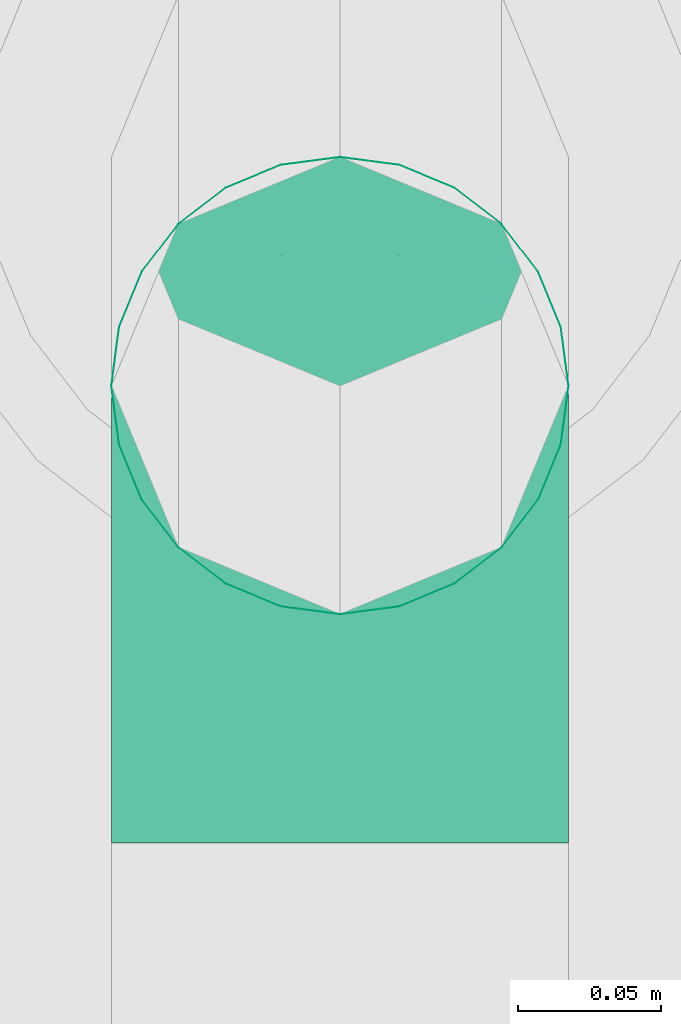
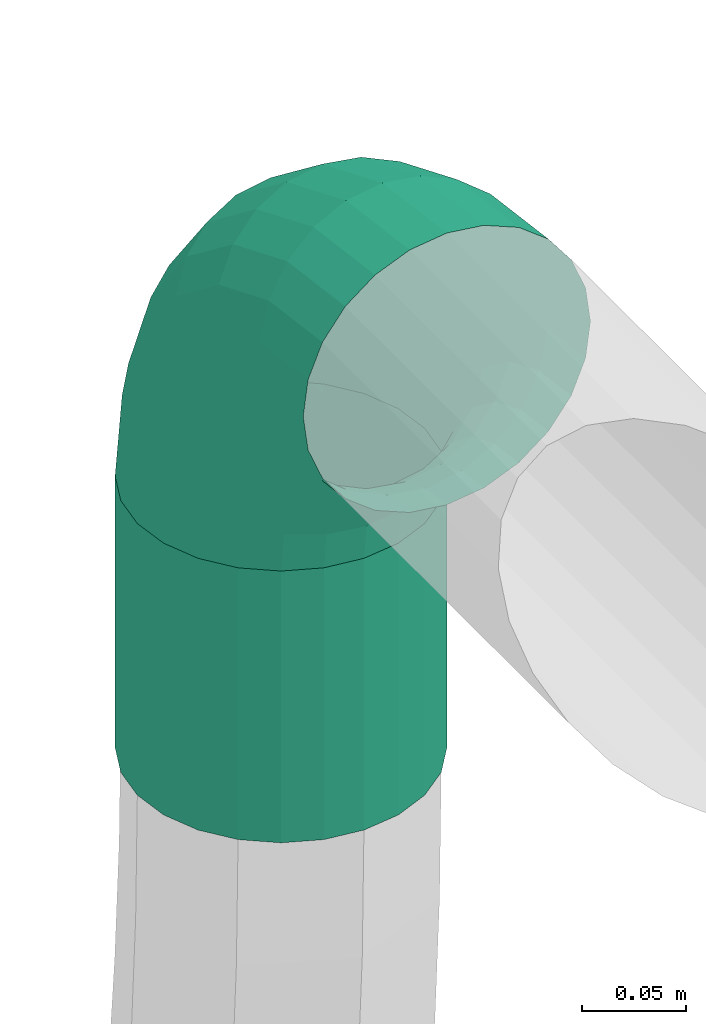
# One storey, part 180 of 374: 1 flow fitting, 1 flow segment.
"""IFC2X3 building model written with IfcOpenShell, lengths in metres."""

from ifc_helpers import new_model, si_unit, direction, origin, place, context, subcontext, project, spatial, open_shell, surface_model, source, transform, mapped, element, save


model = new_model("IFC2X3")

# Units and contexts
model_context = context("Model", 3, precision=1e-05, world=origin(), true_north=direction((-0.4480736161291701, 0.8939966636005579)))
body_context = subcontext(model_context, "Body", "Model", "MODEL_VIEW")
ifc_project = project(units=[si_unit("LENGTHUNIT", "METRE"), si_unit("AREAUNIT", "SQUARE_METRE"), si_unit("VOLUMEUNIT", "CUBIC_METRE"), si_unit("PLANEANGLEUNIT", "RADIAN"), si_unit("THERMODYNAMICTEMPERATUREUNIT", "KELVIN"), si_unit("MASSUNIT", "GRAM", prefix="KILO"), si_unit("TIMEUNIT", "SECOND")], contexts=[model_context])

# Site, building, storey
site_placement = place(None, origin())
site = spatial("IfcSite", under=ifc_project, at=site_placement, Name="Site 1", CompositionType="ELEMENT")
building_placement = place(site_placement, origin())
building = spatial("IfcBuilding", under=site, at=building_placement, Name="Undefined", CompositionType="ELEMENT")
storey_placement = place(building_placement, origin())
storey = spatial("IfcBuildingStorey", under=building, at=storey_placement, Name="Rez de chauss\x8ee", CompositionType="ELEMENT", Elevation=0.0)

# Flow fitting
shared_shape_1 = source(origin(), body_context, "Body", "SurfaceModel", [
    surface_model("IfcFaceBasedSurfaceModel", [(0.06265257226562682, -8.8817842e-16, 0.0), (0.062296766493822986, 0.02088115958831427, -7.105427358e-15), (0.0003558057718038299, 0.020881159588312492, 7.105427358e-15), (0.0, 0.0, 0.0), (-0.059474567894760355, 0.022956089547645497, -0.015896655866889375), (-0.06051773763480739, 0.002098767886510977, -0.01607928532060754), (-0.11311701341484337, 0.02696454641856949, -0.04660663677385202), (-0.11477645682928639, 0.006153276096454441, -0.04714207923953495), (-0.15691588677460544, 0.0326333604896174, -0.09003710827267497), (-0.15907851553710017, 0.01188721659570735, -0.09107150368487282), (-0.18788636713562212, 0.03957621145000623, -0.14322835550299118), (-0.1904048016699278, 0.01890983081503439, -0.14487384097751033), (-0.2039178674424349, 0.04731995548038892, -0.20255548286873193), (-0.20662048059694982, 0.026742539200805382, -0.20488255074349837), (0.061253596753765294, 0.04103889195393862, -0.0053597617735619), (0.0013989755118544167, 0.04103889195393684, -0.005359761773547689), (-0.05641614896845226, 0.04304393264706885, -0.02072097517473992), (-0.10825177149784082, 0.04691737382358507, -0.050396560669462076), (-0.15057538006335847, 0.05239524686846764, -0.09236417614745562), (-0.18050269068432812, 0.05910424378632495, -0.14376379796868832), (-0.19599420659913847, 0.06658715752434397, -0.20109262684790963), (0.05959415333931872, 0.05909948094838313, -0.01571402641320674), (0.003058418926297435, 0.05909948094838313, -0.01571402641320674), (-0.05155090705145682, 0.06099334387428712, -0.030223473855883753), (-0.10051228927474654, 0.06465200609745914, -0.058253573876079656), (-0.1404890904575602, 0.0698261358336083, -0.09789412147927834), (-0.16875695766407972, 0.0761631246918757, -0.14644367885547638), (-0.18338948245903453, 0.08323111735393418, -0.2005936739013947), (0.057431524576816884, 0.07383212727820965, -0.030357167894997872), (0.005221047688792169, 0.07383212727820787, -0.03035716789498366), (-0.0452104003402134, 0.07558110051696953, -0.04375657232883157), (-0.09042599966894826, 0.07895985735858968, -0.06964223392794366), (-0.12734438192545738, 0.08373814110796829, -0.10625008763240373), (-0.15344962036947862, 0.08959031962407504, -0.15108536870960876), (-0.16696268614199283, 0.0961175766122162, -0.20109262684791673), (0.054913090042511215, 0.0842328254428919, -0.048291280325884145), (0.007739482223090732, 0.08423282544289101, -0.04829128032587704), (-0.037826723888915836, 0.08581307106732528, -0.06039801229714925), (-0.07868026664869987, 0.08886587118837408, -0.08378642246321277), (-0.11203704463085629, 0.09318318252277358, -0.11686262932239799), (-0.13562384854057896, 0.09847078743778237, -0.1573725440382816), (-0.14783327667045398, 0.10436834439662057, -0.20255548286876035), (0.05221047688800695, 0.0895927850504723, -0.06829418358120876), (0.010442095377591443, 0.08959278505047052, -0.06829418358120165), (-0.029903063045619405, 0.09099196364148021, -0.07901370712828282), (-0.06607554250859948, 0.09369496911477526, -0.0997222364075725), (-0.0956102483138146, 0.0975175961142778, -0.12900851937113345), (-0.11649443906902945, 0.10219933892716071, -0.16487674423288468), (-0.12730489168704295, 0.1074211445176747, -0.2048825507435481), (0.04950786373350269, 0.08954673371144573, -0.08900271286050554), (0.013144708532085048, 0.08954673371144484, -0.08900271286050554), (-0.02197940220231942, 0.09076484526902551, -0.09833502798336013), (-0.05347081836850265, 0.09311805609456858, -0.11636367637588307), (-0.0791834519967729, 0.09644599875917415, -0.14186003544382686), (-0.09736502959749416, 0.10052187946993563, -0.17308657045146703), (-0.10677650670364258, 0.1050679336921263, -0.20791524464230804), (0.04698942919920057, 0.08409780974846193, -0.10900561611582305), (0.015663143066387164, 0.08409780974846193, -0.10900561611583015), (-0.014595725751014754, 0.08514719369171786, -0.11704525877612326), (-0.0417250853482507, 0.0871744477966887, -0.13257665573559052), (-0.06387611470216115, 0.09004141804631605, -0.15454136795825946), (-0.07953925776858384, 0.09355272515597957, -0.1814425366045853), (-0.08764709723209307, 0.09746907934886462, -0.21144689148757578), (0.04482680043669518, 0.0736173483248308, -0.12693972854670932), (0.017825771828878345, 0.0736173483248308, -0.12693972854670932), (-0.008255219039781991, 0.07452184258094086, -0.13386932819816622), (-0.03163879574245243, 0.0762691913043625, -0.14725628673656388), (-0.050731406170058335, 0.07874031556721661, -0.1661883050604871), (-0.06423192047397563, 0.08176681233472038, -0.18937519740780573), (-0.07122030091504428, 0.08514243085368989, -0.21523681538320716), (0.04316735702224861, 0.058819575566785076, -0.14158287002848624), (0.019485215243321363, 0.058819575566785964, -0.14158287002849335), (-0.0033899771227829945, 0.05961289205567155, -0.14766070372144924), (-0.02389931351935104, 0.06114546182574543, -0.15940217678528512), (-0.04064511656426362, 0.06331284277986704, -0.17600712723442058), (-0.052486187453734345, 0.06596733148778, -0.19634395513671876), (-0.05861557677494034, 0.06892802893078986, -0.2190267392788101), (0.04212418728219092, 0.040712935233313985, -0.15193713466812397), (0.020528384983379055, 0.040712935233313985, -0.15193713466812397), (-0.0003315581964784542, 0.041436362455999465, -0.15747952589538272), (-0.019034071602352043, 0.04283391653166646, -0.16818660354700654), (-0.03430460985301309, 0.04481035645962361, -0.1833286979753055), (-0.04510251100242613, 0.047230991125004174, -0.20187390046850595), (-0.05069191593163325, 0.04993085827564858, -0.22255838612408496), (0.04176838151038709, 0.02053136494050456, -0.15729689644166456), (0.020884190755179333, 0.02053136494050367, -0.15729689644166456), (0.0007116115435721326, 0.021230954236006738, -0.16265665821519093), (-0.017374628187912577, 0.022582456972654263, -0.17301092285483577), (-0.03214198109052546, 0.024493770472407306, -0.1876540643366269), (-0.042584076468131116, 0.026834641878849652, -0.20558817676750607), (-0.04798930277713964, 0.02944554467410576, -0.22559108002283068), (0.04212418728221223, -0.000349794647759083, -0.15729689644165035), (0.020528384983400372, -0.000349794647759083, -0.15729689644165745), (-0.0003315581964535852, 0.00037363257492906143, -0.1628392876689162), (-0.019034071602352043, 0.0017711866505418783, -0.17354636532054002), (-0.03430460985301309, 0.0037476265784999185, -0.18868845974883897), (-0.04510251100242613, 0.00616826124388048, -0.20723366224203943), (-0.05069191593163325, 0.008868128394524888, -0.22791814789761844), (0.04316735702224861, -0.020507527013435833, -0.15193713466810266), (0.019485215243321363, -0.020507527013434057, -0.15193713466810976), (-0.0033899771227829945, -0.019714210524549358, -0.15801496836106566), (-0.02389931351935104, -0.01818164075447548, -0.16975644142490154), (-0.04064511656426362, -0.01601425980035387, -0.186361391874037), (-0.052486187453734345, -0.013359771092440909, -0.20669821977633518), (-0.05861557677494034, -0.010399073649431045, -0.22938100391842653), (0.04482680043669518, -0.03856811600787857, -0.1415828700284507), (0.017825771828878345, -0.03856811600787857, -0.1415828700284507), (-0.008255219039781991, -0.03766362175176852, -0.1485124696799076), (-0.03163879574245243, -0.03591627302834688, -0.16189942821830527), (-0.050731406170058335, -0.03344514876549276, -0.1808314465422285), (-0.06423192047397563, -0.030418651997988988, -0.20401833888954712), (-0.07122030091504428, -0.027043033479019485, -0.22987995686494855), (0.04698942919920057, -0.05330076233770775, -0.12693972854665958), (0.015663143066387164, -0.05330076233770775, -0.12693972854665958), (-0.014595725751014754, -0.05225137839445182, -0.1349793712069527), (-0.0417250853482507, -0.05022412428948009, -0.15051076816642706), (-0.06387611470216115, -0.047357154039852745, -0.172475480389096), (-0.07953925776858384, -0.043845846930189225, -0.19937664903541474), (-0.08764709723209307, -0.03992949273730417, -0.2293810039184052), (0.04950786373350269, -0.06370146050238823, -0.10900561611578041), (0.013144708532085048, -0.06370146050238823, -0.10900561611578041), (-0.02197940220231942, -0.06248334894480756, -0.11833793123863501), (-0.05347081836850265, -0.06013013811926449, -0.13636657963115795), (-0.0791834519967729, -0.05680219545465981, -0.16186293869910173), (-0.09736502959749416, -0.05272631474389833, -0.1930894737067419), (-0.10677650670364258, -0.04818026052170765, -0.2279181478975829), (0.05221047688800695, -0.06906142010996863, -0.08900271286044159), (0.010442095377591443, -0.06906142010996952, -0.08900271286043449), (-0.029903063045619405, -0.06766224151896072, -0.09972223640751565), (-0.06607554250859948, -0.06495923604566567, -0.12043076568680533), (-0.0956102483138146, -0.06113660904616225, -0.14971704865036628), (-0.11649443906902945, -0.05645486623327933, -0.1855852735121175), (-0.12730489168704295, -0.05123306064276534, -0.22559108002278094), (0.054913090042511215, -0.06901536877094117, -0.06829418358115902), (0.007739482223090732, -0.06901536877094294, -0.06829418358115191), (-0.037826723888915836, -0.06743512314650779, -0.08040091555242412), (-0.07868026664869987, -0.06438232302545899, -0.10378932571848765), (-0.11203704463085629, -0.06006501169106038, -0.13686553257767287), (-0.13562384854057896, -0.0547774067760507, -0.17737544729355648), (-0.14783327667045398, -0.04887984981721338, -0.22255838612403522), (0.057431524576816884, -0.06356644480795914, -0.0482912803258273), (0.005221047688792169, -0.06356644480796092, -0.04829128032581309), (-0.0452104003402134, -0.061817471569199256, -0.0616906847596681), (-0.09042599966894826, -0.05843871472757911, -0.0875763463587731), (-0.12734438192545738, -0.05366043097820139, -0.12418420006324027), (-0.15344962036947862, -0.04780825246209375, -0.1690194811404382), (-0.16696268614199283, -0.041280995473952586, -0.21902673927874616), (0.05959415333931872, -0.05308598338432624, -0.030357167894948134), (0.003058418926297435, -0.05308598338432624, -0.030357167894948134), (-0.05155090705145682, -0.05119212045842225, -0.04486661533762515), (-0.10051228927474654, -0.04753345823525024, -0.07289671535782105), (-0.1404890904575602, -0.04235932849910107, -0.11253726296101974), (-0.16875695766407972, -0.03602233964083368, -0.16108682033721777), (-0.18338948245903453, -0.02895434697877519, -0.2152368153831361), (0.061253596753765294, -0.03828821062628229, -0.015714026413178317), (0.0013989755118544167, -0.03828821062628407, -0.015714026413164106), (-0.05641614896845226, -0.03628316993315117, -0.031075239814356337), (-0.10825177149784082, -0.03240972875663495, -0.06075082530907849), (-0.15057538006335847, -0.026931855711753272, -0.10271844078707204), (-0.18050269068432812, -0.02022285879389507, -0.15411806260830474), (-0.19599420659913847, -0.012739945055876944, -0.21144689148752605), (0.062296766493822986, -0.020181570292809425, -0.005359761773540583), (0.0003558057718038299, -0.020181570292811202, -0.0053597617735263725), (-0.059474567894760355, -0.018106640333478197, -0.021256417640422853), (-0.11311701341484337, -0.014098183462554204, -0.051966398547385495), (-0.15691588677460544, -0.00842936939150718, -0.09539687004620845), (-0.18788636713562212, -0.0014865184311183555, -0.14858811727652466), (-0.2039178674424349, 0.006257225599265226, -0.2079152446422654)], [open_shell([[[0, 1, 2, 3]], [[3, 2, 4, 5]], [[5, 4, 6, 7]], [[7, 6, 8, 9]], [[9, 8, 10, 11]], [[11, 10, 12, 13]], [[1, 14, 15, 2]], [[2, 15, 16, 4]], [[4, 16, 17, 6]], [[6, 17, 18, 8]], [[8, 18, 19, 10]], [[10, 19, 20, 12]], [[14, 21, 22, 15]], [[15, 22, 23, 16]], [[16, 23, 24, 17]], [[17, 24, 25, 18]], [[18, 25, 26, 19]], [[19, 26, 27, 20]], [[21, 28, 29, 22]], [[22, 29, 30, 23]], [[23, 30, 31, 24]], [[24, 31, 32, 25]], [[25, 32, 33, 26]], [[26, 33, 34, 27]], [[28, 35, 36, 29]], [[29, 36, 37, 30]], [[30, 37, 38, 31]], [[31, 38, 39, 32]], [[32, 39, 40, 33]], [[33, 40, 41, 34]], [[35, 42, 43, 36]], [[36, 43, 44, 37]], [[37, 44, 45, 38]], [[38, 45, 46, 39]], [[39, 46, 47, 40]], [[40, 47, 48, 41]], [[42, 49, 50, 43]], [[43, 50, 51, 44]], [[44, 51, 52, 45]], [[45, 52, 53, 46]], [[46, 53, 54, 47]], [[47, 54, 55, 48]], [[49, 56, 57, 50]], [[50, 57, 58, 51]], [[51, 58, 59, 52]], [[52, 59, 60, 53]], [[53, 60, 61, 54]], [[54, 61, 62, 55]], [[56, 63, 64, 57]], [[57, 64, 65, 58]], [[58, 65, 66, 59]], [[59, 66, 67, 60]], [[60, 67, 68, 61]], [[61, 68, 69, 62]], [[63, 70, 71, 64]], [[64, 71, 72, 65]], [[65, 72, 73, 66]], [[66, 73, 74, 67]], [[67, 74, 75, 68]], [[68, 75, 76, 69]], [[70, 77, 78, 71]], [[71, 78, 79, 72]], [[72, 79, 80, 73]], [[73, 80, 81, 74]], [[74, 81, 82, 75]], [[75, 82, 83, 76]], [[77, 84, 85, 78]], [[78, 85, 86, 79]], [[79, 86, 87, 80]], [[80, 87, 88, 81]], [[81, 88, 89, 82]], [[82, 89, 90, 83]], [[84, 91, 92, 85]], [[85, 92, 93, 86]], [[86, 93, 94, 87]], [[87, 94, 95, 88]], [[88, 95, 96, 89]], [[89, 96, 97, 90]], [[91, 98, 99, 92]], [[92, 99, 100, 93]], [[93, 100, 101, 94]], [[94, 101, 102, 95]], [[95, 102, 103, 96]], [[96, 103, 104, 97]], [[98, 105, 106, 99]], [[99, 106, 107, 100]], [[100, 107, 108, 101]], [[101, 108, 109, 102]], [[102, 109, 110, 103]], [[103, 110, 111, 104]], [[105, 112, 113, 106]], [[106, 113, 114, 107]], [[107, 114, 115, 108]], [[108, 115, 116, 109]], [[109, 116, 117, 110]], [[110, 117, 118, 111]], [[112, 119, 120, 113]], [[113, 120, 121, 114]], [[114, 121, 122, 115]], [[115, 122, 123, 116]], [[116, 123, 124, 117]], [[117, 124, 125, 118]], [[119, 126, 127, 120]], [[120, 127, 128, 121]], [[121, 128, 129, 122]], [[122, 129, 130, 123]], [[123, 130, 131, 124]], [[124, 131, 132, 125]], [[126, 133, 134, 127]], [[127, 134, 135, 128]], [[128, 135, 136, 129]], [[129, 136, 137, 130]], [[130, 137, 138, 131]], [[131, 138, 139, 132]], [[133, 140, 141, 134]], [[134, 141, 142, 135]], [[135, 142, 143, 136]], [[136, 143, 144, 137]], [[137, 144, 145, 138]], [[138, 145, 146, 139]], [[140, 147, 148, 141]], [[141, 148, 149, 142]], [[142, 149, 150, 143]], [[143, 150, 151, 144]], [[144, 151, 152, 145]], [[145, 152, 153, 146]], [[147, 154, 155, 148]], [[148, 155, 156, 149]], [[149, 156, 157, 150]], [[150, 157, 158, 151]], [[151, 158, 159, 152]], [[152, 159, 160, 153]], [[154, 161, 162, 155]], [[155, 162, 163, 156]], [[156, 163, 164, 157]], [[157, 164, 165, 158]], [[158, 165, 166, 159]], [[159, 166, 167, 160]], [[161, 0, 3, 162]], [[162, 3, 5, 163]], [[163, 5, 7, 164]], [[164, 7, 9, 165]], [[165, 9, 11, 166]], [[166, 11, 13, 167]]])]),
])
flow_fitting_placement = place(storey_placement, origin())
element("IfcFlowFitting", 1, at=flow_fitting_placement, inside=storey, Name="Coude", ObjectType="Coude", context=body_context, shape_type="MappedRepresentation", body=[
    mapped(shared_shape_1, transform((57.36100041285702, 24.177619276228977, 3.7021165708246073), x_axis=(0.0, 0.13052619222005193, -0.9914448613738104), y_axis=(-0.9915887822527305, -0.12832103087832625, -0.016893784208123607), z_axis=(-0.12942830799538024, 0.9831056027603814, 0.12942830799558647))),
])

# Flow segment
shared_shape_2 = source(origin(), body_context, "Body", "SurfaceModel", [
    surface_model("IfcFaceBasedSurfaceModel", [(0.0, 0.020884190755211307, 0.0), (0.0, 0.0, 0.0), (0.16000000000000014, 0.0, -4.4408921e-16), (0.16000000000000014, 0.0208841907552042, -4.4408921e-16), (0.0, -0.020172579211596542, -0.005405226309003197), (0.16000000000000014, -0.020172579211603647, -0.005405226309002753), (0.0, -0.03825881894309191, -0.015847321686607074), (0.16000000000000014, -0.03825881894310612, -0.015847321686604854), (0.0, -0.05302617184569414, -0.0306146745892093), (0.16000000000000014, -0.05302617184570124, -0.03061467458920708), (0.0, -0.06346826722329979, -0.04870091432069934), (0.16000000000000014, -0.0634682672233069, -0.04870091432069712), (0.0, -0.06887349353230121, -0.06887349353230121), (0.16000000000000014, -0.06887349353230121, -0.06887349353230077), (0.0, -0.06887349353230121, -0.08975768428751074), (0.16000000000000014, -0.06887349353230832, -0.08975768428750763), (0.0, -0.06346826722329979, -0.10993026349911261), (0.16000000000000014, -0.0634682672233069, -0.10993026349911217), (0.0, -0.05302617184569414, -0.12801650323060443), (0.16000000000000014, -0.05302617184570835, -0.1280165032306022), (0.0, -0.038258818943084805, -0.14278385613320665), (0.16000000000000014, -0.03825881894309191, -0.14278385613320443), (0.0, -0.020172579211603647, -0.15322595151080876), (0.16000000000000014, -0.020172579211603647, -0.1532259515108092), (0.0, 7.105427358e-15, -0.15863117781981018), (0.16000000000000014, -7.105427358e-15, -0.15863117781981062), (0.0, 0.020884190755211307, -0.15863117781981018), (0.16000000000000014, 0.0208841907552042, -0.15863117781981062), (0.0, 0.04105676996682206, -0.15322595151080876), (0.16000000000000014, 0.04105676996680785, -0.1532259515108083), (0.0, 0.05914300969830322, -0.1427838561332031), (0.16000000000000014, 0.05914300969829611, -0.14278385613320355), (0.0, 0.07391036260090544, -0.12801650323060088), (0.16000000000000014, 0.07391036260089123, -0.1280165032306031), (0.0, 0.0843524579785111, -0.10993026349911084), (0.16000000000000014, 0.08435245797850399, -0.10993026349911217), (0.0, 0.08975768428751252, -0.08975768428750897), (0.16000000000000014, 0.08975768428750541, -0.08975768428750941), (0.0, 0.08975768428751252, -0.06887349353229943), (0.16000000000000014, 0.08975768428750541, -0.06887349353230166), (0.0, 0.0843524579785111, -0.048700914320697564), (0.16000000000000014, 0.08435245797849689, -0.04870091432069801), (0.0, 0.07391036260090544, -0.030614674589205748), (0.16000000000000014, 0.07391036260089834, -0.03061467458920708), (0.0, 0.05914300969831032, -0.015847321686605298), (0.16000000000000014, 0.05914300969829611, -0.01584732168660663), (0.0, 0.04105676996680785, -0.005405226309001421), (0.16000000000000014, 0.04105676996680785, -0.005405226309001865)], [open_shell([[[0, 1, 2, 3]], [[1, 4, 5, 2]], [[4, 6, 7, 5]], [[6, 8, 9, 7]], [[8, 10, 11, 9]], [[10, 12, 13, 11]], [[12, 14, 15, 13]], [[14, 16, 17, 15]], [[16, 18, 19, 17]], [[18, 20, 21, 19]], [[20, 22, 23, 21]], [[22, 24, 25, 23]], [[24, 26, 27, 25]], [[26, 28, 29, 27]], [[28, 30, 31, 29]], [[30, 32, 33, 31]], [[32, 34, 35, 33]], [[34, 36, 37, 35]], [[36, 38, 39, 37]], [[38, 40, 41, 39]], [[40, 42, 43, 41]], [[42, 44, 45, 43]], [[44, 46, 47, 45]], [[46, 0, 3, 47]]])]),
])
flow_segment_placement = place(storey_placement, origin())
element("IfcFlowSegment", 2, at=flow_segment_placement, inside=storey, Name="Tube", ObjectType="Tube", context=body_context, shape_type="MappedRepresentation", body=[
    mapped(shared_shape_2, transform((57.38170593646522, 24.028523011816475, 3.4800000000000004), x_axis=(0.0, 0.0, 1.0), y_axis=(-0.9914448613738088, -0.13052619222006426, 0.0), z_axis=(0.13052619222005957, -0.9914448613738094, 0.0))),
])

save(model, "model.ifc")
